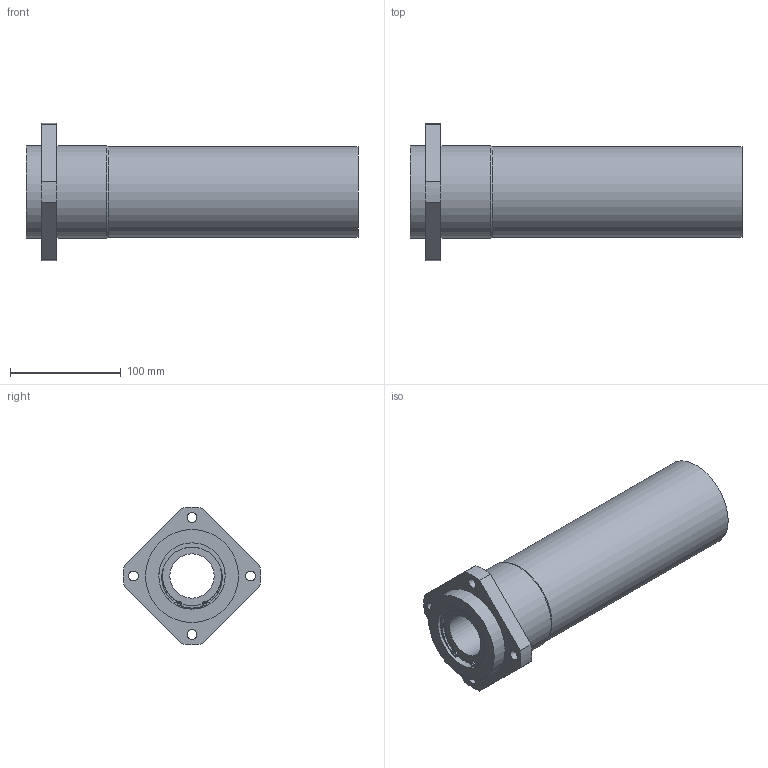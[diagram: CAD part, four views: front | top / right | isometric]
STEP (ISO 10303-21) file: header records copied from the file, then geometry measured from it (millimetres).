
FILE_DESCRIPTION((''),'2;1');
FILE_NAME('C:\Documents and Settings\土屋\My Documents\土屋移動用フォルダ\製品 (図面)\カタログ用3D\変換ファイル\OZAK_3D-CAD(STEP形式)\Part1.-Linear Bearings_ﾘﾆｱﾍﾞｱﾘﾝｸﾞ\09_Maintenance Free_ﾒｲﾝﾃﾅﾝｽﾌﾘｰ\L2017-09-22T14:11:28','2017-09-22T14:11:28',('y'),(''),'Autodesk Inventor 11','Autodesk Inventor 11','');
FILE_SCHEMA(('AUTOMOTIVE_DESIGN { 1 0 10303 214 1 1 1 1 }'));
Length unit declared in the file: millimetre
Products named in the file (1): LFWLB40BMF
Bounding box: 300 x 123.84 x 123.84 mm (x, y, z)
Volume: 1264112.3 mm3; surface area: 148494.5 mm2
Topology: 1 solids, 7 shells, 97 faces, 229 edges, 144 vertices
Faces by surface type: bspline 34, cylinder 32, plane 28, torus 2, cone 1
Full cylindrical faces by diameter (mm): 2.5 x2, 9 x4, 40 x2, 53.4 x2, 57 x2, 60 x8, 82 x1, 84 x2
Entity records: 2813 total; most frequent: CARTESIAN_POINT 754, DIRECTION 436, ORIENTED_EDGE 352, AXIS2_PLACEMENT_3D 196, EDGE_CURVE 176, EDGE_LOOP 166, CIRCLE 132, VERTEX_POINT 128
